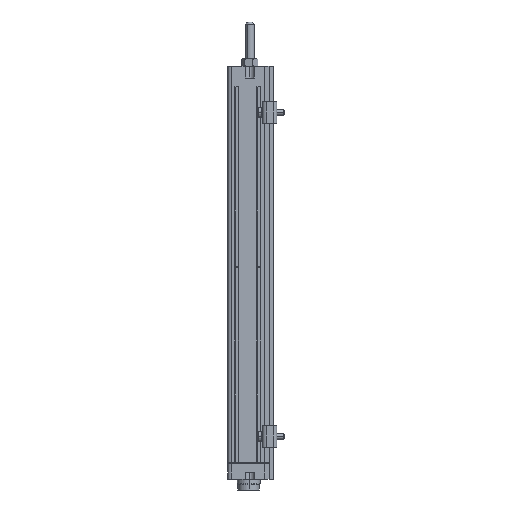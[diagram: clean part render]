
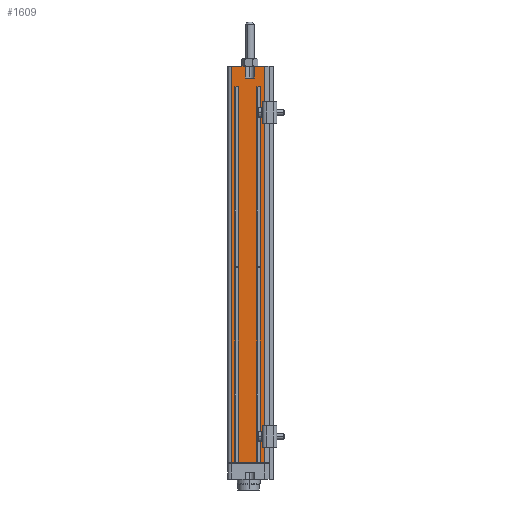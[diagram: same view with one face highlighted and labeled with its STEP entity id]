
A CAD part, left-side view. The second image highlights one B-rep face of the part: STEP entity #1609.
In plain terms, the highlighted planar face has unit normal (-1, 0, 0).
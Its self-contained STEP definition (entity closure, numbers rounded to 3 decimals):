
#1609=ADVANCED_FACE('',(#3447),#3448,.T.);
#3447=FACE_OUTER_BOUND('',#5604,.T.);
#3448=PLANE('',#5605);
#5604=EDGE_LOOP('',(#10241,#10242,#10243,#10244,#10245,#10246,#10247,#10248,#10249,#10250,#10251,#10252,#10253,#10254,#10255,#10256));
#5605=AXIS2_PLACEMENT_3D('',#10257,#10258,#10259);
#10241=ORIENTED_EDGE('',*,*,#13886,.F.);
#10242=ORIENTED_EDGE('',*,*,#13889,.T.);
#10243=ORIENTED_EDGE('',*,*,#13890,.T.);
#10244=ORIENTED_EDGE('',*,*,#13891,.T.);
#10245=ORIENTED_EDGE('',*,*,#13892,.F.);
#10246=ORIENTED_EDGE('',*,*,#13893,.T.);
#10247=ORIENTED_EDGE('',*,*,#13894,.T.);
#10248=ORIENTED_EDGE('',*,*,#13895,.T.);
#10249=ORIENTED_EDGE('',*,*,#13896,.F.);
#10250=ORIENTED_EDGE('',*,*,#13897,.T.);
#10251=ORIENTED_EDGE('',*,*,#13898,.T.);
#10252=ORIENTED_EDGE('',*,*,#13899,.F.);
#10253=ORIENTED_EDGE('',*,*,#13900,.F.);
#10254=ORIENTED_EDGE('',*,*,#13901,.F.);
#10255=ORIENTED_EDGE('',*,*,#13902,.T.);
#10256=ORIENTED_EDGE('',*,*,#13903,.F.);
#10257=CARTESIAN_POINT('',(0.0,27.0,-136.5));
#10258=DIRECTION('',(-1.0,0.0,0.0));
#10259=DIRECTION('',(0.0,0.0,1.0));
#13886=EDGE_CURVE('',#16958,#16960,#16961,.T.);
#13889=EDGE_CURVE('',#16958,#16964,#16965,.T.);
#13890=EDGE_CURVE('',#16964,#16966,#16967,.T.);
#13891=EDGE_CURVE('',#16966,#16968,#16969,.T.);
#13892=EDGE_CURVE('',#16970,#16968,#16971,.T.);
#13893=EDGE_CURVE('',#16970,#16972,#16973,.T.);
#13894=EDGE_CURVE('',#16972,#16974,#16975,.T.);
#13895=EDGE_CURVE('',#16974,#16976,#16977,.T.);
#13896=EDGE_CURVE('',#16978,#16976,#16979,.T.);
#13897=EDGE_CURVE('',#16978,#16980,#16981,.T.);
#13898=EDGE_CURVE('',#16980,#16982,#16983,.T.);
#13899=EDGE_CURVE('',#16984,#16982,#16985,.T.);
#13900=EDGE_CURVE('',#16986,#16984,#16987,.T.);
#13901=EDGE_CURVE('',#16988,#16986,#16989,.T.);
#13902=EDGE_CURVE('',#16988,#16990,#16991,.T.);
#13903=EDGE_CURVE('',#16960,#16990,#16992,.T.);
#16958=VERTEX_POINT('',#21409);
#16960=VERTEX_POINT('',#21411);
#16961=LINE('',#21412,#21413);
#16964=VERTEX_POINT('',#21416);
#16965=LINE('',#21417,#21418);
#16966=VERTEX_POINT('',#21419);
#16967=LINE('',#21420,#21421);
#16968=VERTEX_POINT('',#21422);
#16969=LINE('',#21423,#21424);
#16970=VERTEX_POINT('',#21425);
#16971=LINE('',#21426,#21427);
#16972=VERTEX_POINT('',#21428);
#16973=LINE('',#21429,#21430);
#16974=VERTEX_POINT('',#21431);
#16975=LINE('',#21432,#21433);
#16976=VERTEX_POINT('',#21434);
#16977=LINE('',#21435,#21436);
#16978=VERTEX_POINT('',#21437);
#16979=LINE('',#21438,#21439);
#16980=VERTEX_POINT('',#21440);
#16981=LINE('',#21441,#21442);
#16982=VERTEX_POINT('',#21443);
#16983=LINE('',#21444,#21445);
#16984=VERTEX_POINT('',#21446);
#16985=LINE('',#21447,#21448);
#16986=VERTEX_POINT('',#21449);
#16987=LINE('',#21450,#21451);
#16988=VERTEX_POINT('',#21452);
#16989=LINE('',#21453,#21454);
#16990=VERTEX_POINT('',#21455);
#16991=LINE('',#21456,#21457);
#16992=LINE('',#21458,#21459);
#21409=CARTESIAN_POINT('',(0.0,29.5,-136.5));
#21411=CARTESIAN_POINT('',(0.,29.5,141.3));
#21412=CARTESIAN_POINT('',(0.0,29.5,-136.5));
#21413=VECTOR('',#24905,277.8);
#21416=CARTESIAN_POINT('',(0.0,27.0,-136.5));
#21417=CARTESIAN_POINT('',(0.0,29.5,-136.5));
#21418=VECTOR('',#24909,2.5);
#21419=CARTESIAN_POINT('',(0.0,27.0,127.0));
#21420=CARTESIAN_POINT('',(0.0,27.0,-136.5));
#21421=VECTOR('',#24910,263.5);
#21422=CARTESIAN_POINT('',(0.0,24.4,127.0));
#21423=CARTESIAN_POINT('',(0.,27.0,127.0));
#21424=VECTOR('',#24911,2.6);
#21425=CARTESIAN_POINT('',(0.0,24.4,-136.5));
#21426=CARTESIAN_POINT('',(0.0,24.4,-136.5));
#21427=VECTOR('',#24912,263.5);
#21428=CARTESIAN_POINT('',(0.0,11.6,-136.5));
#21429=CARTESIAN_POINT('',(0.0,24.4,-136.5));
#21430=VECTOR('',#24913,12.8);
#21431=CARTESIAN_POINT('',(0.0,11.6,127.0));
#21432=CARTESIAN_POINT('',(0.0,11.6,-136.5));
#21433=VECTOR('',#24914,263.5);
#21434=CARTESIAN_POINT('',(0.0,9.,127.0));
#21435=CARTESIAN_POINT('',(0.,11.6,127.0));
#21436=VECTOR('',#24915,2.6);
#21437=CARTESIAN_POINT('',(0.0,9.0,-136.5));
#21438=CARTESIAN_POINT('',(0.0,9.0,-136.5));
#21439=VECTOR('',#24916,263.5);
#21440=CARTESIAN_POINT('',(0.0,6.0,-136.5));
#21441=CARTESIAN_POINT('',(0.0,9.0,-136.5));
#21442=VECTOR('',#24917,3.0);
#21443=CARTESIAN_POINT('',(0.,6.,141.3));
#21444=CARTESIAN_POINT('',(0.0,6.0,-136.5));
#21445=VECTOR('',#24918,277.8);
#21446=CARTESIAN_POINT('',(0.,13.25,141.3));
#21447=CARTESIAN_POINT('',(0.,13.25,141.3));
#21448=VECTOR('',#24919,7.25);
#21449=CARTESIAN_POINT('',(0.,13.25,133.0));
#21450=CARTESIAN_POINT('',(0.,13.25,133.0));
#21451=VECTOR('',#24920,8.3);
#21452=CARTESIAN_POINT('',(0.,19.75,133.0));
#21453=CARTESIAN_POINT('',(0.,19.75,133.0));
#21454=VECTOR('',#24921,6.5);
#21455=CARTESIAN_POINT('',(0.,19.75,141.3));
#21456=CARTESIAN_POINT('',(0.,19.75,133.0));
#21457=VECTOR('',#24922,8.3);
#21458=CARTESIAN_POINT('',(0.,29.5,141.3));
#21459=VECTOR('',#24923,9.75);
#24905=DIRECTION('',(0.0,0.0,1.0));
#24909=DIRECTION('',(0.0,-1.0,0.0));
#24910=DIRECTION('',(0.0,0.0,1.0));
#24911=DIRECTION('',(0.0,-1.0,0.0));
#24912=DIRECTION('',(0.0,0.0,1.0));
#24913=DIRECTION('',(0.0,-1.0,0.0));
#24914=DIRECTION('',(0.0,0.0,1.0));
#24915=DIRECTION('',(0.0,-1.0,0.0));
#24916=DIRECTION('',(0.0,0.0,1.0));
#24917=DIRECTION('',(0.0,-1.0,0.0));
#24918=DIRECTION('',(0.0,0.0,1.0));
#24919=DIRECTION('',(0.0,-1.0,0.0));
#24920=DIRECTION('',(0.0,0.0,1.0));
#24921=DIRECTION('',(0.0,-1.0,0.0));
#24922=DIRECTION('',(0.0,0.0,1.0));
#24923=DIRECTION('',(0.0,-1.0,0.0));
